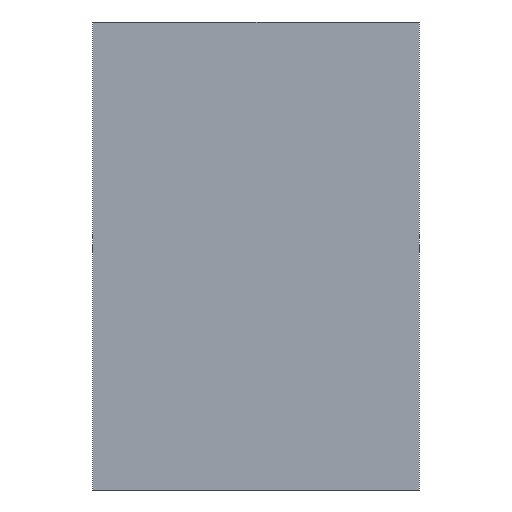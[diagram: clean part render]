
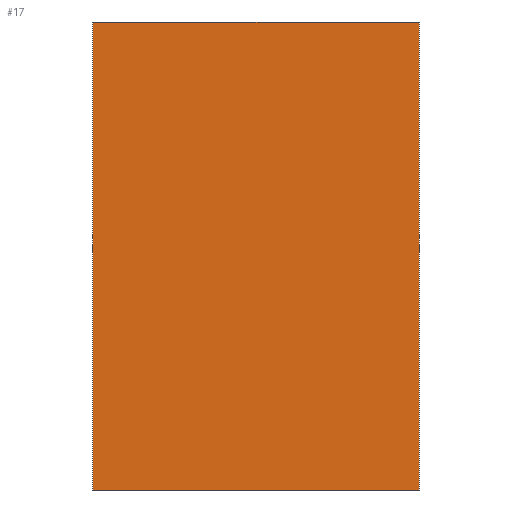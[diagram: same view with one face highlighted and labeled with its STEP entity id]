
A CAD part, left-side view. The second image highlights one B-rep face of the part: STEP entity #17.
In plain terms, the highlighted planar face has unit normal (-1, 0, 0).
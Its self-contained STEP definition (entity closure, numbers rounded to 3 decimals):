
#17 = ADVANCED_FACE('',(#18),#32,.F.);
#18 = FACE_BOUND('',#19,.F.);
#19 = EDGE_LOOP('',(#20,#55,#83,#111));
#20 = ORIENTED_EDGE('',*,*,#21,.F.);
#21 = EDGE_CURVE('',#22,#24,#26,.T.);
#22 = VERTEX_POINT('',#23);
#23 = CARTESIAN_POINT('',(-6.025,0.,-15.));
#24 = VERTEX_POINT('',#25);
#25 = CARTESIAN_POINT('',(-6.025,0.,15.));
#26 = SURFACE_CURVE('',#27,(#31,#43),.PCURVE_S1.);
#27 = LINE('',#28,#29);
#28 = CARTESIAN_POINT('',(-6.025,0.,-15.));
#29 = VECTOR('',#30,1.);
#30 = DIRECTION('',(0.,0.,1.));
#31 = PCURVE('',#32,#37);
#32 = PLANE('',#33);
#33 = AXIS2_PLACEMENT_3D('',#34,#35,#36);
#34 = CARTESIAN_POINT('',(-6.025,0.,-15.));
#35 = DIRECTION('',(1.,0.,0.));
#36 = DIRECTION('',(0.,0.,1.));
#37 = DEFINITIONAL_REPRESENTATION('',(#38),#42);
#38 = LINE('',#39,#40);
#39 = CARTESIAN_POINT('',(0.,0.));
#40 = VECTOR('',#41,1.);
#41 = DIRECTION('',(1.,0.));
#42 = ( GEOMETRIC_REPRESENTATION_CONTEXT(2) 
PARAMETRIC_REPRESENTATION_CONTEXT() REPRESENTATION_CONTEXT('2D SPACE',''
  ) );
#43 = PCURVE('',#44,#49);
#44 = PLANE('',#45);
#45 = AXIS2_PLACEMENT_3D('',#46,#47,#48);
#46 = CARTESIAN_POINT('',(-6.025,0.,-15.));
#47 = DIRECTION('',(0.,1.,0.));
#48 = DIRECTION('',(0.,0.,1.));
#49 = DEFINITIONAL_REPRESENTATION('',(#50),#54);
#50 = LINE('',#51,#52);
#51 = CARTESIAN_POINT('',(0.,0.));
#52 = VECTOR('',#53,1.);
#53 = DIRECTION('',(1.,0.));
#54 = ( GEOMETRIC_REPRESENTATION_CONTEXT(2) 
PARAMETRIC_REPRESENTATION_CONTEXT() REPRESENTATION_CONTEXT('2D SPACE',''
  ) );
#55 = ORIENTED_EDGE('',*,*,#56,.T.);
#56 = EDGE_CURVE('',#22,#57,#59,.T.);
#57 = VERTEX_POINT('',#58);
#58 = CARTESIAN_POINT('',(-6.025,20.95,-15.));
#59 = SURFACE_CURVE('',#60,(#64,#71),.PCURVE_S1.);
#60 = LINE('',#61,#62);
#61 = CARTESIAN_POINT('',(-6.025,0.,-15.));
#62 = VECTOR('',#63,1.);
#63 = DIRECTION('',(0.,1.,0.));
#64 = PCURVE('',#32,#65);
#65 = DEFINITIONAL_REPRESENTATION('',(#66),#70);
#66 = LINE('',#67,#68);
#67 = CARTESIAN_POINT('',(0.,0.));
#68 = VECTOR('',#69,1.);
#69 = DIRECTION('',(0.,-1.));
#70 = ( GEOMETRIC_REPRESENTATION_CONTEXT(2) 
PARAMETRIC_REPRESENTATION_CONTEXT() REPRESENTATION_CONTEXT('2D SPACE',''
  ) );
#71 = PCURVE('',#72,#77);
#72 = PLANE('',#73);
#73 = AXIS2_PLACEMENT_3D('',#74,#75,#76);
#74 = CARTESIAN_POINT('',(-6.025,0.,-15.));
#75 = DIRECTION('',(0.,0.,1.));
#76 = DIRECTION('',(1.,0.,0.));
#77 = DEFINITIONAL_REPRESENTATION('',(#78),#82);
#78 = LINE('',#79,#80);
#79 = CARTESIAN_POINT('',(0.,0.));
#80 = VECTOR('',#81,1.);
#81 = DIRECTION('',(0.,1.));
#82 = ( GEOMETRIC_REPRESENTATION_CONTEXT(2) 
PARAMETRIC_REPRESENTATION_CONTEXT() REPRESENTATION_CONTEXT('2D SPACE',''
  ) );
#83 = ORIENTED_EDGE('',*,*,#84,.T.);
#84 = EDGE_CURVE('',#57,#85,#87,.T.);
#85 = VERTEX_POINT('',#86);
#86 = CARTESIAN_POINT('',(-6.025,20.95,15.));
#87 = SURFACE_CURVE('',#88,(#92,#99),.PCURVE_S1.);
#88 = LINE('',#89,#90);
#89 = CARTESIAN_POINT('',(-6.025,20.95,-15.));
#90 = VECTOR('',#91,1.);
#91 = DIRECTION('',(0.,0.,1.));
#92 = PCURVE('',#32,#93);
#93 = DEFINITIONAL_REPRESENTATION('',(#94),#98);
#94 = LINE('',#95,#96);
#95 = CARTESIAN_POINT('',(0.,-20.95));
#96 = VECTOR('',#97,1.);
#97 = DIRECTION('',(1.,0.));
#98 = ( GEOMETRIC_REPRESENTATION_CONTEXT(2) 
PARAMETRIC_REPRESENTATION_CONTEXT() REPRESENTATION_CONTEXT('2D SPACE',''
  ) );
#99 = PCURVE('',#100,#105);
#100 = PLANE('',#101);
#101 = AXIS2_PLACEMENT_3D('',#102,#103,#104);
#102 = CARTESIAN_POINT('',(-6.025,20.95,-15.));
#103 = DIRECTION('',(0.,1.,0.));
#104 = DIRECTION('',(0.,0.,1.));
#105 = DEFINITIONAL_REPRESENTATION('',(#106),#110);
#106 = LINE('',#107,#108);
#107 = CARTESIAN_POINT('',(0.,0.));
#108 = VECTOR('',#109,1.);
#109 = DIRECTION('',(1.,0.));
#110 = ( GEOMETRIC_REPRESENTATION_CONTEXT(2) 
PARAMETRIC_REPRESENTATION_CONTEXT() REPRESENTATION_CONTEXT('2D SPACE',''
  ) );
#111 = ORIENTED_EDGE('',*,*,#112,.F.);
#112 = EDGE_CURVE('',#24,#85,#113,.T.);
#113 = SURFACE_CURVE('',#114,(#118,#125),.PCURVE_S1.);
#114 = LINE('',#115,#116);
#115 = CARTESIAN_POINT('',(-6.025,0.,15.));
#116 = VECTOR('',#117,1.);
#117 = DIRECTION('',(0.,1.,0.));
#118 = PCURVE('',#32,#119);
#119 = DEFINITIONAL_REPRESENTATION('',(#120),#124);
#120 = LINE('',#121,#122);
#121 = CARTESIAN_POINT('',(30.,0.));
#122 = VECTOR('',#123,1.);
#123 = DIRECTION('',(0.,-1.));
#124 = ( GEOMETRIC_REPRESENTATION_CONTEXT(2) 
PARAMETRIC_REPRESENTATION_CONTEXT() REPRESENTATION_CONTEXT('2D SPACE',''
  ) );
#125 = PCURVE('',#126,#131);
#126 = PLANE('',#127);
#127 = AXIS2_PLACEMENT_3D('',#128,#129,#130);
#128 = CARTESIAN_POINT('',(-6.025,0.,15.));
#129 = DIRECTION('',(0.,0.,1.));
#130 = DIRECTION('',(1.,0.,0.));
#131 = DEFINITIONAL_REPRESENTATION('',(#132),#136);
#132 = LINE('',#133,#134);
#133 = CARTESIAN_POINT('',(0.,0.));
#134 = VECTOR('',#135,1.);
#135 = DIRECTION('',(0.,1.));
#136 = ( GEOMETRIC_REPRESENTATION_CONTEXT(2) 
PARAMETRIC_REPRESENTATION_CONTEXT() REPRESENTATION_CONTEXT('2D SPACE',''
  ) );
